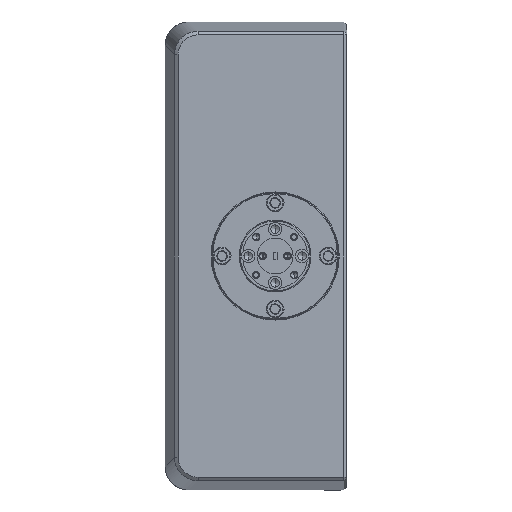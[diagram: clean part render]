
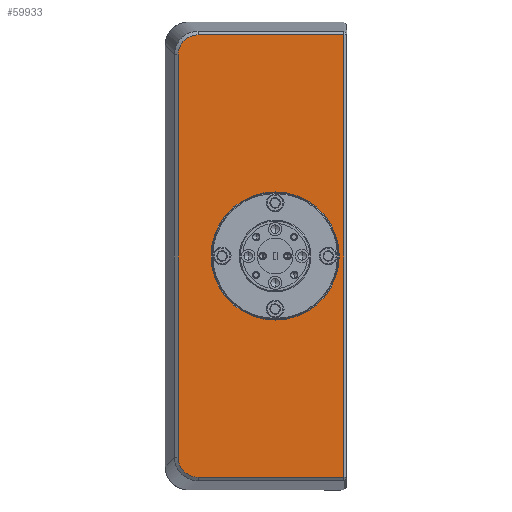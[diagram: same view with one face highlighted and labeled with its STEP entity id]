
A CAD part, left-side view. The second image highlights one B-rep face of the part: STEP entity #59933.
In plain terms, the highlighted planar face has unit normal (-1, 0, 0).
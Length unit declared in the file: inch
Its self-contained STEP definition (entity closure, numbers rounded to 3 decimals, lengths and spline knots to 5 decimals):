
#1361 = PLANE ( 'NONE',  #32695 ) ;
#2304 = CARTESIAN_POINT ( 'NONE',  ( -2.75, -1.48136, 2.31232 ) ) ;
#3546 = DIRECTION ( 'NONE',  ( 0., 0., 1. ) ) ;
#4061 = CARTESIAN_POINT ( 'NONE',  ( -2.75, -0.70801, -2.2321 ) ) ;
#4511 = CARTESIAN_POINT ( 'NONE',  ( -2.75, -0.74651, 2.2706 ) ) ;
#5899 = CARTESIAN_POINT ( 'NONE',  ( -2.75, -0.8752, -2.31232 ) ) ;
#7377 = CARTESIAN_POINT ( 'NONE',  ( -2.75, -0.84766, -2.31233 ) ) ;
#8559 = CARTESIAN_POINT ( 'NONE',  ( -2.75, -2.40136, 0. ) ) ;
#9461 = B_SPLINE_CURVE_WITH_KNOTS ( 'NONE', 3,
 ( #33683, #28101, #32211, #54572, #4061, #17393, #29918, #22887, #7377, #5899 ),
 .UNSPECIFIED., .F., .F.,
 ( 4, 2, 2, 2, 4 ),
 ( 0., 0.25, 0.5, 0.75, 1. ),
 .UNSPECIFIED. ) ;
#10518 = VERTEX_POINT ( 'NONE', #20911 ) ;
#11449 = CARTESIAN_POINT ( 'NONE',  ( -2.75, -1.68136, 0.67 ) ) ;
#11554 = DIRECTION ( 'NONE',  ( 0., 0., -1. ) ) ;
#14335 = ORIENTED_EDGE ( 'NONE', *, *, #31207, .T. ) ;
#15777 = CARTESIAN_POINT ( 'NONE',  ( -2.75, -0.8752, -2.31232 ) ) ;
#17265 = CARTESIAN_POINT ( 'NONE',  ( -2.75, -1.68136, -0.67 ) ) ;
#17393 = CARTESIAN_POINT ( 'NONE',  ( -2.75, -0.7465, -2.27061 ) ) ;
#18044 = VERTEX_POINT ( 'NONE', #64941 ) ;
#19824 = B_SPLINE_CURVE_WITH_KNOTS ( 'NONE', 3,
 ( #56536, #28558, #27804, #21176, #4511, #66113, #38190, #60531, #27083, #49500 ),
 .UNSPECIFIED., .F., .F.,
 ( 4, 2, 2, 2, 4 ),
 ( 0., 0.25, 0.5, 0.75, 1. ),
 .UNSPECIFIED. ) ;
#20464 = FACE_OUTER_BOUND ( 'NONE', #51766, .T. ) ;
#20911 = CARTESIAN_POINT ( 'NONE',  ( -2.75, -0.66628, 2.1034 ) ) ;
#21176 = CARTESIAN_POINT ( 'NONE',  ( -2.75, -0.76974, 2.28609 ) ) ;
#22887 = CARTESIAN_POINT ( 'NONE',  ( -2.75, -0.82021, -2.30689 ) ) ;
#24874 = DIRECTION ( 'NONE',  ( 0., 1., 0. ) ) ;
#27080 = CARTESIAN_POINT ( 'NONE',  ( -2.75, -2.40136, -2.31232 ) ) ;
#27083 = CARTESIAN_POINT ( 'NONE',  ( -2.75, -0.66628, 2.13095 ) ) ;
#27804 = CARTESIAN_POINT ( 'NONE',  ( -2.75, -0.82022, 2.30689 ) ) ;
#28101 = CARTESIAN_POINT ( 'NONE',  ( -2.75, -0.66628, -2.13089 ) ) ;
#28123 = EDGE_LOOP ( 'NONE', ( #46984, #53972 ) ) ;
#28558 = CARTESIAN_POINT ( 'NONE',  ( -2.75, -0.84772, 2.31233 ) ) ;
#29918 = CARTESIAN_POINT ( 'NONE',  ( -2.75, -0.76974, -2.28609 ) ) ;
#30416 = DIRECTION ( 'NONE',  ( -1., 0., 0. ) ) ;
#30895 = EDGE_CURVE ( 'NONE', #66955, #51661, #71553, .T. ) ;
#31178 = LINE ( 'NONE', #54281, #55146 ) ;
#31207 = EDGE_CURVE ( 'NONE', #70690, #36388, #9461, .T. ) ;
#31844 = VECTOR ( 'NONE', #24874, 39.37008 ) ;
#32211 = CARTESIAN_POINT ( 'NONE',  ( -2.75, -0.67172, -2.15839 ) ) ;
#32488 = VECTOR ( 'NONE', #11554, 39.37008 ) ;
#32695 = AXIS2_PLACEMENT_3D ( 'NONE', #60545, #72352, #61299 ) ;
#33683 = CARTESIAN_POINT ( 'NONE',  ( -2.75, -0.66628, -2.1034 ) ) ;
#34672 = AXIS2_PLACEMENT_3D ( 'NONE', #63175, #30416, #46227 ) ;
#35639 = VERTEX_POINT ( 'NONE', #27080 ) ;
#36388 = VERTEX_POINT ( 'NONE', #15777 ) ;
#37580 = CARTESIAN_POINT ( 'NONE',  ( -2.75, -1.68136, 0. ) ) ;
#38190 = CARTESIAN_POINT ( 'NONE',  ( -2.75, -0.69252, 2.20886 ) ) ;
#40379 = EDGE_CURVE ( 'NONE', #36388, #35639, #31178, .T. ) ;
#40516 = CARTESIAN_POINT ( 'NONE',  ( -2.75, -2.40136, 2.31232 ) ) ;
#40560 = FACE_BOUND ( 'NONE', #28123, .T. ) ;
#41705 = EDGE_CURVE ( 'NONE', #66664, #18044, #59047, .T. ) ;
#45088 = LINE ( 'NONE', #62004, #32488 ) ;
#46227 = DIRECTION ( 'NONE',  ( 0., 0., 1. ) ) ;
#46601 = VECTOR ( 'NONE', #71510, 39.37008 ) ;
#46846 = EDGE_CURVE ( 'NONE', #10518, #70690, #45088, .T. ) ;
#46984 = ORIENTED_EDGE ( 'NONE', *, *, #30895, .F. ) ;
#47017 = EDGE_CURVE ( 'NONE', #35639, #66664, #70458, .T. ) ;
#48642 = ORIENTED_EDGE ( 'NONE', *, *, #40379, .T. ) ;
#48675 = CARTESIAN_POINT ( 'NONE',  ( -2.75, -0.66628, -2.1034 ) ) ;
#49500 = CARTESIAN_POINT ( 'NONE',  ( -2.75, -0.66628, 2.1034 ) ) ;
#50660 = ORIENTED_EDGE ( 'NONE', *, *, #46846, .T. ) ;
#51661 = VERTEX_POINT ( 'NONE', #17265 ) ;
#51766 = EDGE_LOOP ( 'NONE', ( #14335, #48642, #61064, #68428, #71231, #50660 ) ) ;
#53972 = ORIENTED_EDGE ( 'NONE', *, *, #72797, .F. ) ;
#54027 = DIRECTION ( 'NONE',  ( -1., 0., 0. ) ) ;
#54281 = CARTESIAN_POINT ( 'NONE',  ( -2.75, -1.48136, -2.31232 ) ) ;
#54572 = CARTESIAN_POINT ( 'NONE',  ( -2.75, -0.69251, -2.20886 ) ) ;
#55146 = VECTOR ( 'NONE', #59441, 39.37008 ) ;
#56536 = CARTESIAN_POINT ( 'NONE',  ( -2.75, -0.8752, 2.31232 ) ) ;
#59047 = LINE ( 'NONE', #2304, #31844 ) ;
#59441 = DIRECTION ( 'NONE',  ( 0., -1., 0. ) ) ;
#59933 = ADVANCED_FACE ( 'NONE', ( #20464, #40560 ), #1361, .F. ) ;
#60531 = CARTESIAN_POINT ( 'NONE',  ( -2.75, -0.67171, 2.15839 ) ) ;
#60545 = CARTESIAN_POINT ( 'NONE',  ( -2.75, -1.48136, 0. ) ) ;
#61064 = ORIENTED_EDGE ( 'NONE', *, *, #47017, .T. ) ;
#61299 = DIRECTION ( 'NONE',  ( 0., 0., -1. ) ) ;
#62004 = CARTESIAN_POINT ( 'NONE',  ( -2.75, -0.66628, 0. ) ) ;
#63175 = CARTESIAN_POINT ( 'NONE',  ( -2.75, -1.68136, 0. ) ) ;
#64941 = CARTESIAN_POINT ( 'NONE',  ( -2.75, -0.8752, 2.31232 ) ) ;
#66113 = CARTESIAN_POINT ( 'NONE',  ( -2.75, -0.708, 2.2321 ) ) ;
#66322 = CIRCLE ( 'NONE', #34672, 0.67 ) ;
#66664 = VERTEX_POINT ( 'NONE', #40516 ) ;
#66955 = VERTEX_POINT ( 'NONE', #11449 ) ;
#68428 = ORIENTED_EDGE ( 'NONE', *, *, #41705, .T. ) ;
#68705 = EDGE_CURVE ( 'NONE', #18044, #10518, #19824, .T. ) ;
#70424 = AXIS2_PLACEMENT_3D ( 'NONE', #37580, #54027, #3546 ) ;
#70458 = LINE ( 'NONE', #8559, #46601 ) ;
#70690 = VERTEX_POINT ( 'NONE', #48675 ) ;
#71231 = ORIENTED_EDGE ( 'NONE', *, *, #68705, .T. ) ;
#71510 = DIRECTION ( 'NONE',  ( 0., 0., 1. ) ) ;
#71553 = CIRCLE ( 'NONE', #70424, 0.67 ) ;
#72352 = DIRECTION ( 'NONE',  ( 1., 0., 0. ) ) ;
#72797 = EDGE_CURVE ( 'NONE', #51661, #66955, #66322, .T. ) ;
